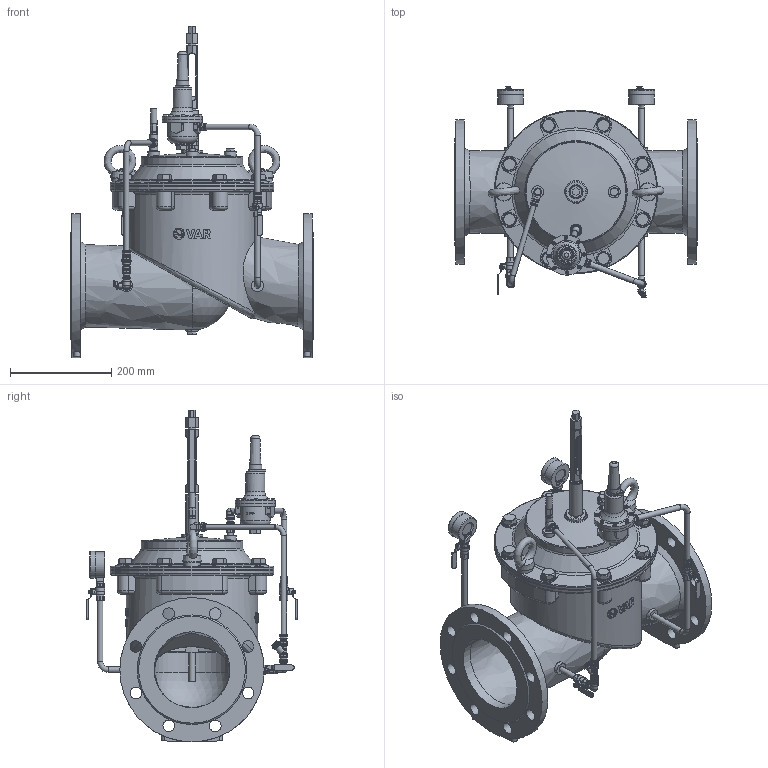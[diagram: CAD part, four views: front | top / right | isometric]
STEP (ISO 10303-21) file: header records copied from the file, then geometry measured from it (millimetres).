
FILE_DESCRIPTION(('STEP AP242'), '1');
FILE_NAME('PICO C200', '', ('UNSPECIFIED'), ('UNSPECIFIED'), 'C3D Converter', 'C3D Toolkit', '');
FILE_SCHEMA(('AP242_MANAGED_MODEL_BASED_3D_ENGINEERING_MIM_LF { 1 0 10303 442 1 1 4 }'));
Length unit declared in the file: millimetre
Products named in the file (26): М; ВР.752218.002
Assembly tree (61 placements, depth 3):
  (unnamed)
    (unnamed)
    (unnamed)
    (unnamed)
    (unnamed)
    (unnamed)
    (unnamed)
    (unnamed)
    М  x2
    (unnamed)
    (unnamed)  x4
    ВР.752218.002  x2
    (unnamed)  x6
    (unnamed)
    (unnamed)  x4
    (unnamed)
    (unnamed)
      (unnamed)
      (unnamed)
      (unnamed)  x8
      (unnamed)
    (unnamed)
    (unnamed)  x2
    (unnamed)  x2
    (unnamed)  x8
    (unnamed)  x8
Bounding box: 480 x 416 x 655.5 mm (x, y, z)
Volume: 7483636.4 mm3; surface area: 1977134.6 mm2
Topology: 67 solids, 69 shells, 2886 faces, 7265 edges, 4761 vertices
Faces by surface type: plane 1606, cylinder 621, cone 313, extrusion 139, torus 109, bspline 87, sphere 11
Full cylindrical faces by diameter (mm): 0.518 x2, 1.2 x1, 2.5 x2, 3 x8, 4 x25, 4.2 x4, 4.5 x4, 5 x2, 6 x8, 7 x8, 8 x5, 8.7 x1, 9 x16, 9.3 x6, 9.5 x2, 10 x4, 10.2 x4, 10.8 x2, 11 x18, 11.16 x4, 11.179 x6, 11.22 x4, 11.4 x2, 11.577 x2, 12 x10, 12.5 x3, 12.573 x15, 13.157 x2, 13.8 x4, 14.4 x5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
Entity records: 114261 total; most frequent: CARTESIAN_POINT 64177, ORIENTED_EDGE 7972, DIRECTION 7253, EDGE_CURVE 3986, VERTEX_POINT 2847, AXIS2_PLACEMENT_3D 2667, EDGE_LOOP 2433, FACE_BOUND 1922
